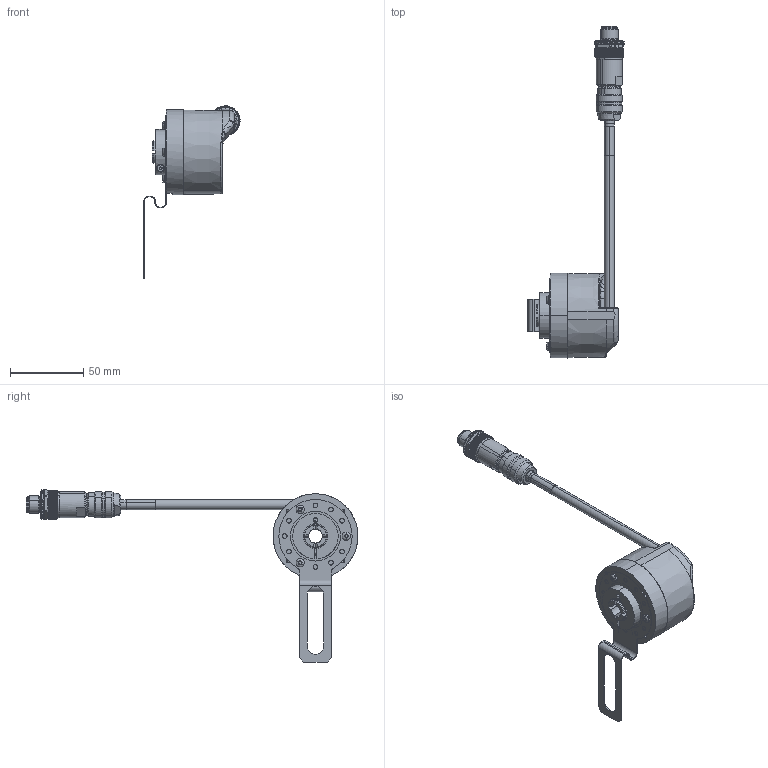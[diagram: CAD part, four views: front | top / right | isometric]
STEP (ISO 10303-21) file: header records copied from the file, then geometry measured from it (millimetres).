
FILE_DESCRIPTION (( 'STEP AP203' ), '1' );
FILE_NAME ('K58I.OXX.XXXXX.XH2452A.6XT13.XXXX.step', '2025-12-08T15:00:51', ( '' ), ( '' ), 'SwSTEP 2.0', 'SolidWorks 2021', '' );
FILE_SCHEMA (( 'CONFIG_CONTROL_DESIGN' ));
Length unit declared in the file: millimetre
Products named in the file (1): K58I.OXX.XXXXX.XH2452A.6XT13.XXXX
Bounding box: 65.67 x 226.59 x 117.59 mm (x, y, z)
Volume: 117783.8 mm3; surface area: 50410.6 mm2
Topology: 20 solids, 25 shells, 1625 faces, 3992 edges, 2428 vertices
Faces by surface type: plane 591, cylinder 561, cone 325, bspline 78, torus 55, sphere 15
Entity records: 53639 total; most frequent: CARTESIAN_POINT 16470, ORIENTED_EDGE 7914, DIRECTION 7617, EDGE_CURVE 3957, AXIS2_PLACEMENT_3D 3043, VERTEX_POINT 2428, EDGE_LOOP 1717, FACE_OUTER_BOUND 1625
